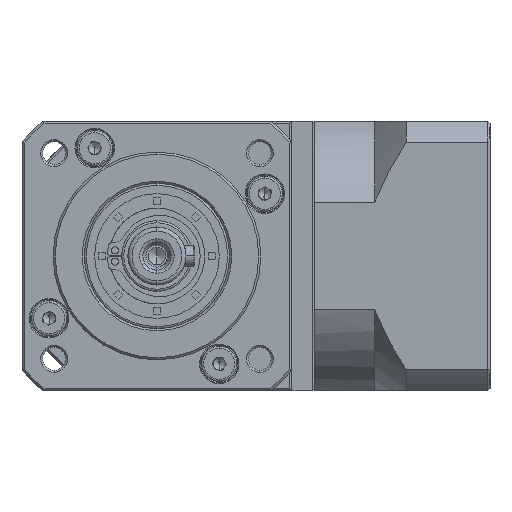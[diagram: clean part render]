
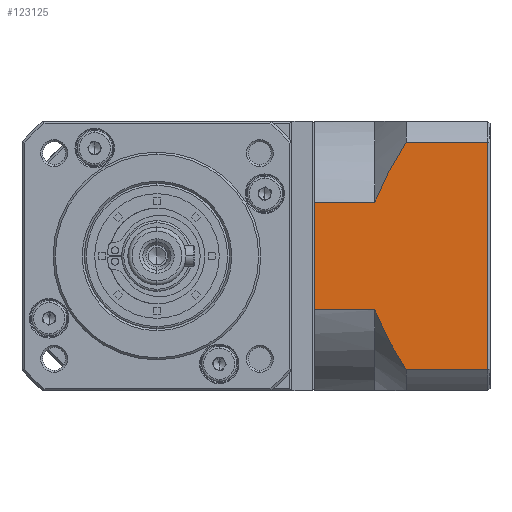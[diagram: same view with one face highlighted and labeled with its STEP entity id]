
A CAD part, left-side view. The second image highlights one B-rep face of the part: STEP entity #123125.
In plain terms, the highlighted planar face has unit normal (-1, 0, 0).
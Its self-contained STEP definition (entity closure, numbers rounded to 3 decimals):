
#1211 = VECTOR ( 'NONE', #152660, 1000. ) ;
#1691 = ORIENTED_EDGE ( 'NONE', *, *, #13836, .F. ) ;
#7554 = ORIENTED_EDGE ( 'NONE', *, *, #32337, .F. ) ;
#9100 = CARTESIAN_POINT ( 'NONE',  ( -21.287, -92.987, -141.863 ) ) ;
#11234 = LINE ( 'NONE', #127233, #41345 ) ;
#11395 = CARTESIAN_POINT ( 'NONE',  ( -21.287, -92.987, -87.091 ) ) ;
#13836 = EDGE_CURVE ( 'NONE', #111197, #20566, #11234, .T. ) ;
#18054 = CARTESIAN_POINT ( 'NONE',  ( -21.287, -112.687, -141.863 ) ) ;
#20566 = VERTEX_POINT ( 'NONE', #152977 ) ;
#24298 = CARTESIAN_POINT ( 'NONE',  ( -21.287, -91.539, -89.38 ) ) ;
#24477 = CARTESIAN_POINT ( 'NONE',  ( -21.287, -85.487, -141.863 ) ) ;
#25752 = VERTEX_POINT ( 'NONE', #117834 ) ;
#31888 = ORIENTED_EDGE ( 'NONE', *, *, #108375, .T. ) ;
#32337 = EDGE_CURVE ( 'NONE', #152850, #124815, #35441, .T. ) ;
#33539 = DIRECTION ( 'NONE',  ( 0., 0., -1. ) ) ;
#33691 = VECTOR ( 'NONE', #42779, 1000. ) ;
#35441 = LINE ( 'NONE', #24477, #1211 ) ;
#36278 = VECTOR ( 'NONE', #33539, 1000. ) ;
#36394 = CARTESIAN_POINT ( 'NONE',  ( -21.287, -113.187, -146.977 ) ) ;
#37222 = CARTESIAN_POINT ( 'NONE',  ( -21.287, -89.484, -92.901 ) ) ;
#38751 = EDGE_CURVE ( 'NONE', #116959, #94806, #140855, .T. ) ;
#41345 = VECTOR ( 'NONE', #140637, 1000. ) ;
#42779 = DIRECTION ( 'NONE',  ( 0., 1., 0. ) ) ;
#44522 = CARTESIAN_POINT ( 'NONE',  ( -21.287, -85.487, -87.091 ) ) ;
#47265 = CARTESIAN_POINT ( 'NONE',  ( -21.287, -85.978, -128.748 ) ) ;
#49307 = DIRECTION ( 'NONE',  ( 0., 1., 0. ) ) ;
#50114 = CARTESIAN_POINT ( 'NONE',  ( -21.287, -86.429, -98.949 ) ) ;
#53538 = LINE ( 'NONE', #153554, #83545 ) ;
#57509 = DIRECTION ( 'NONE',  ( 0., -1., 0. ) ) ;
#58364 = LINE ( 'NONE', #110329, #36278 ) ;
#60229 = CARTESIAN_POINT ( 'NONE',  ( -21.287, -86.778, -130.634 ) ) ;
#61729 = PLANE ( 'NONE',  #148323 ) ;
#64131 = DIRECTION ( 'NONE',  ( 0., 0., 1. ) ) ;
#66215 = ORIENTED_EDGE ( 'NONE', *, *, #157550, .T. ) ;
#69781 = B_SPLINE_CURVE_WITH_KNOTS ( 'NONE', 3,
 ( #161936, #111151, #47265, #136853, #60229, #149661, #73044, #162501, #85930, #9100 ),
 .UNSPECIFIED., .F., .F.,
 ( 4, 2, 2, 2, 4 ),
 ( 0.101, 0.103, 0.105, 0.109, 0.117 ),
 .UNSPECIFIED. ) ;
#69957 = EDGE_CURVE ( 'NONE', #152850, #94806, #53538, .T. ) ;
#70191 = ORIENTED_EDGE ( 'NONE', *, *, #89005, .F. ) ;
#73044 = CARTESIAN_POINT ( 'NONE',  ( -21.287, -88.233, -133.7 ) ) ;
#76847 = VECTOR ( 'NONE', #57509, 1000. ) ;
#83545 = VECTOR ( 'NONE', #64131, 1000. ) ;
#85930 = CARTESIAN_POINT ( 'NONE',  ( -21.287, -91.526, -139.595 ) ) ;
#89005 = EDGE_CURVE ( 'NONE', #108081, #25752, #97876, .T. ) ;
#90591 = CARTESIAN_POINT ( 'NONE',  ( -21.287, -70.987, -101.487 ) ) ;
#94806 = VERTEX_POINT ( 'NONE', #134600 ) ;
#97876 = LINE ( 'NONE', #132352, #33691 ) ;
#99798 = CARTESIAN_POINT ( 'NONE',  ( -21.287, -92.987, -87.091 ) ) ;
#101136 = CARTESIAN_POINT ( 'NONE',  ( -21.287, -92.254, -88.229 ) ) ;
#102923 = CARTESIAN_POINT ( 'NONE',  ( -21.287, -92.987, -141.863 ) ) ;
#106020 = ORIENTED_EDGE ( 'NONE', *, *, #69957, .T. ) ;
#108081 = VERTEX_POINT ( 'NONE', #133030 ) ;
#108375 = EDGE_CURVE ( 'NONE', #116959, #20566, #131892, .T. ) ;
#110073 = ORIENTED_EDGE ( 'NONE', *, *, #38751, .F. ) ;
#110329 = CARTESIAN_POINT ( 'NONE',  ( -21.287, -70.987, -146.977 ) ) ;
#111151 = CARTESIAN_POINT ( 'NONE',  ( -21.287, -85.726, -128.109 ) ) ;
#111197 = VERTEX_POINT ( 'NONE', #90591 ) ;
#112558 = EDGE_CURVE ( 'NONE', #108081, #124815, #69781, .T. ) ;
#113952 = CARTESIAN_POINT ( 'NONE',  ( -21.287, -90.154, -91.715 ) ) ;
#116959 = VERTEX_POINT ( 'NONE', #99798 ) ;
#117834 = CARTESIAN_POINT ( 'NONE',  ( -21.287, -70.987, -127.467 ) ) ;
#123125 = ADVANCED_FACE ( 'NONE', ( #134364 ), #61729, .F. ) ;
#124315 = ORIENTED_EDGE ( 'NONE', *, *, #112558, .T. ) ;
#124815 = VERTEX_POINT ( 'NONE', #102923 ) ;
#125995 = DIRECTION ( 'NONE',  ( 1., 0., 0. ) ) ;
#126817 = CARTESIAN_POINT ( 'NONE',  ( -21.287, -87.574, -96.497 ) ) ;
#127233 = CARTESIAN_POINT ( 'NONE',  ( -21.287, -85.487, -101.487 ) ) ;
#131892 = B_SPLINE_CURVE_WITH_KNOTS ( 'NONE', 3,
 ( #11395, #101136, #24298, #113952, #37222, #126817, #50114, #139702 ),
 .UNSPECIFIED., .F., .F.,
 ( 4, 2, 2, 4 ),
 ( 0.058, 0.062, 0.066, 0.074 ),
 .UNSPECIFIED. ) ;
#132352 = CARTESIAN_POINT ( 'NONE',  ( -21.287, -85.487, -127.467 ) ) ;
#133030 = CARTESIAN_POINT ( 'NONE',  ( -21.287, -85.487, -127.467 ) ) ;
#134364 = FACE_OUTER_BOUND ( 'NONE', #148019, .T. ) ;
#134600 = CARTESIAN_POINT ( 'NONE',  ( -21.287, -112.687, -87.091 ) ) ;
#136853 = CARTESIAN_POINT ( 'NONE',  ( -21.287, -86.504, -130.01 ) ) ;
#139702 = CARTESIAN_POINT ( 'NONE',  ( -21.287, -85.487, -101.487 ) ) ;
#140637 = DIRECTION ( 'NONE',  ( 0., -1., 0. ) ) ;
#140855 = LINE ( 'NONE', #44522, #76847 ) ;
#148019 = EDGE_LOOP ( 'NONE', ( #7554, #106020, #110073, #31888, #1691, #66215, #70191, #124315 ) ) ;
#148323 = AXIS2_PLACEMENT_3D ( 'NONE', #36394, #125995, #49307 ) ;
#149661 = CARTESIAN_POINT ( 'NONE',  ( -21.287, -87.628, -132.488 ) ) ;
#152660 = DIRECTION ( 'NONE',  ( 0., 1., 0. ) ) ;
#152850 = VERTEX_POINT ( 'NONE', #18054 ) ;
#152977 = CARTESIAN_POINT ( 'NONE',  ( -21.287, -85.487, -101.487 ) ) ;
#153554 = CARTESIAN_POINT ( 'NONE',  ( -21.287, -112.687, -146.977 ) ) ;
#157550 = EDGE_CURVE ( 'NONE', #111197, #25752, #58364, .T. ) ;
#161936 = CARTESIAN_POINT ( 'NONE',  ( -21.287, -85.487, -127.467 ) ) ;
#162501 = CARTESIAN_POINT ( 'NONE',  ( -21.287, -90.138, -137.281 ) ) ;
